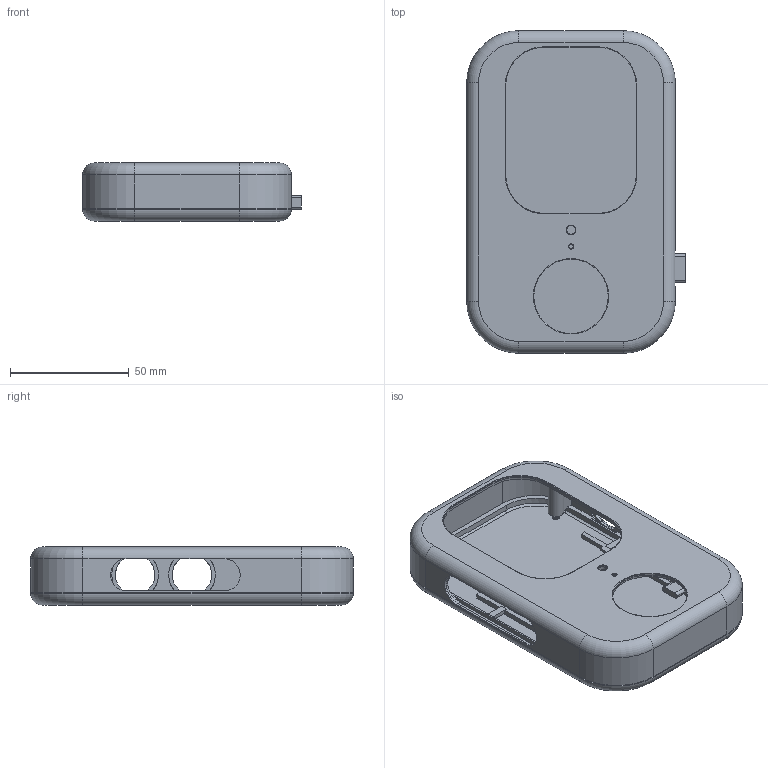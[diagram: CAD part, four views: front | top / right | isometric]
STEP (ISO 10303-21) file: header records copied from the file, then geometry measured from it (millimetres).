
FILE_DESCRIPTION(('Open CASCADE Model'),'2;1');
FILE_NAME('Open CASCADE Shape Model','2026-09-06T11:32:43',('Author'),( 'Open CASCADE'),'Open CASCADE STEP processor 7.7','Open CASCADE 7.7' ,'Unknown');
FILE_SCHEMA(('AUTOMOTIVE_DESIGN { 1 0 10303 214 1 1 1 1 }'));
Length unit declared in the file: millimetre
Products named in the file (14): U1_CENTERED_OPENING_UNVERIFIED_CABLE; 01_front_structural_tub; 01_front_structural_tub_part; 02_rear_structural_cover; 02_rear_structural_cover_part; 03_front_silicone_skin; 03_front_silicone_skin_part; 04_rear_silicone_skin; 04_rear_silicone_skin_part; REF_UNVERIFIED_PLUG_NECK; REF_UNVERIFIED_PLUG_NECK_part; REF_UNVERIFIED_OVERMOLD; REF_UNVERIFIED_OVERMOLD_part
Assembly tree (13 placements, depth 4):
  U1_CENTERED_OPENING_UNVERIFIED_CABLE
    U1_CENTERED_OPENING_UNVERIFIED_CABLE
      01_front_structural_tub
        01_front_structural_tub_part
      02_rear_structural_cover
        02_rear_structural_cover_part
      03_front_silicone_skin
        03_front_silicone_skin_part
      04_rear_silicone_skin
        04_rear_silicone_skin_part
      REF_UNVERIFIED_PLUG_NECK
        REF_UNVERIFIED_PLUG_NECK_part
      REF_UNVERIFIED_OVERMOLD
        REF_UNVERIFIED_OVERMOLD_part
Bounding box: 92.2 x 136 x 24.5 mm (x, y, z)
Volume: 62870 mm3; surface area: 106832.1 mm2
Topology: 6 solids, 6 shells, 538 faces, 1553 edges, 1023 vertices
Faces by surface type: plane 294, cylinder 205, torus 39
Full cylindrical faces by diameter (mm): 1.6 x2, 1.8 x2, 2.8 x4, 3.7 x2, 5.3 x8, 5.6 x2, 31.4 x2
Entity records: 40989 total; most frequent: CARTESIAN_POINT 10366, DIRECTION 5625, LINE 3306, VECTOR 3306, ORIENTED_EDGE 3106, PCURVE 3106, DEFINITIONAL_REPRESENTATION 3106, EDGE_CURVE 1553
